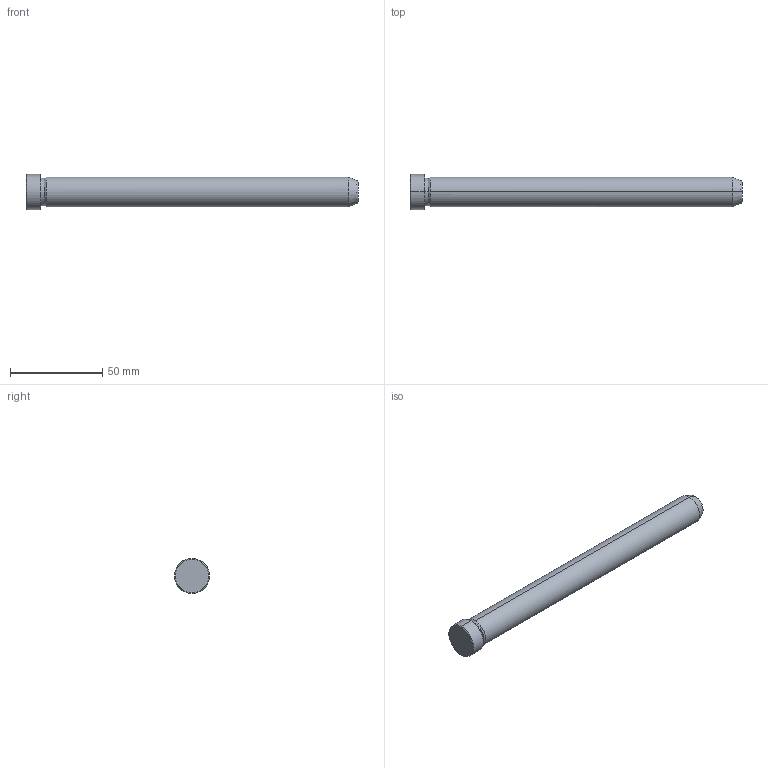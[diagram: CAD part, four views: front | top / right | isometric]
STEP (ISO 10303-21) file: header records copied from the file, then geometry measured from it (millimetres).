
FILE_DESCRIPTION(('CATIA V5 STEP Exchange'),'2;1');
FILE_NAME('C:\Users\Utente\Desktop\IO LAVORO\3D X SITO CF\X SITO\PLASTICA\549\549-16X180.stp','2021-12-11T09:30:38+00:00',('none'),('none'),'CATIA Version 5 Release 20 GA (IN-10)','CATIA V5 STEP AP203','none');
FILE_SCHEMA(('CONFIG_CONTROL_DESIGN'));
Length unit declared in the file: millimetre
Products named in the file (1): 549-16X180
Bounding box: 180 x 19 x 19 mm (x, y, z)
Volume: 36550.7 mm3; surface area: 9582.7 mm2
Topology: 1 solids, 1 shells, 19 faces, 56 edges, 40 vertices
Faces by surface type: cone 8, cylinder 6, plane 3, torus 2
Entity records: 736 total; most frequent: CARTESIAN_POINT 192, ORIENTED_EDGE 112, DIRECTION 86, EDGE_CURVE 56, AXIS2_PLACEMENT_3D 54, VERTEX_POINT 40, CIRCLE 34, EDGE_LOOP 20
